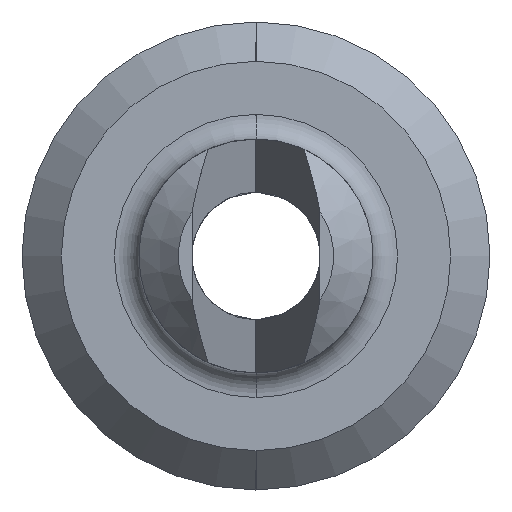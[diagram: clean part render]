
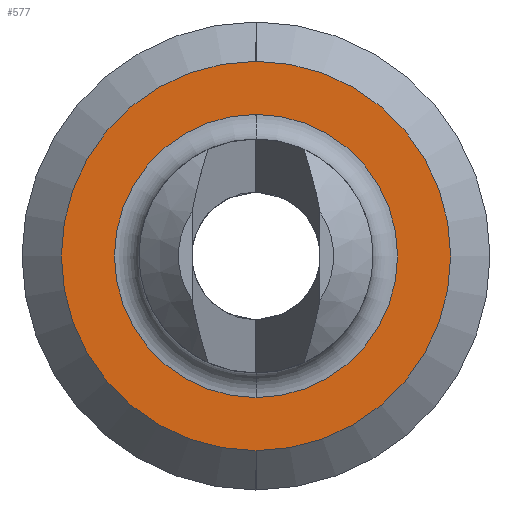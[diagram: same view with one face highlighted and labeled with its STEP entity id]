
A CAD part, left-side view. The second image highlights one B-rep face of the part: STEP entity #577.
In plain terms, the highlighted planar face has unit normal (1, 0, 0).
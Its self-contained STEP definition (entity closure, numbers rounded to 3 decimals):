
#14=FACE_BOUND('',#171,.T.);
#18=PLANE('',#701);
#142=FACE_OUTER_BOUND('',#170,.T.);
#170=EDGE_LOOP('',(#497));
#171=EDGE_LOOP('',(#498));
#212=CIRCLE('',#702,1.98);
#213=CIRCLE('',#703,1.44);
#281=VERTEX_POINT('',#1248);
#282=VERTEX_POINT('',#1250);
#389=EDGE_CURVE('',#281,#281,#212,.T.);
#390=EDGE_CURVE('',#282,#282,#213,.T.);
#497=ORIENTED_EDGE('',*,*,#389,.T.);
#498=ORIENTED_EDGE('',*,*,#390,.T.);
#577=ADVANCED_FACE('',(#142,#14),#18,.T.);
#701=AXIS2_PLACEMENT_3D('',#1247,#828,#829);
#702=AXIS2_PLACEMENT_3D('',#1249,#830,#831);
#703=AXIS2_PLACEMENT_3D('',#1251,#832,#833);
#828=DIRECTION('center_axis',(1.,0.,0.));
#829=DIRECTION('ref_axis',(0.,0.,-1.));
#830=DIRECTION('center_axis',(1.,0.,0.));
#831=DIRECTION('ref_axis',(0.,0.,-1.));
#832=DIRECTION('center_axis',(-1.,0.,0.));
#833=DIRECTION('ref_axis',(0.,0.,
-1.));
#1247=CARTESIAN_POINT('Origin',(-0.79,-2.004,0.));
#1248=CARTESIAN_POINT('',(-0.79,0.,1.98));
#1249=CARTESIAN_POINT('Origin',(-0.79,0.,0.));
#1250=CARTESIAN_POINT('',(-0.79,0.,1.44));
#1251=CARTESIAN_POINT('Origin',(-0.79,0.,0.));
